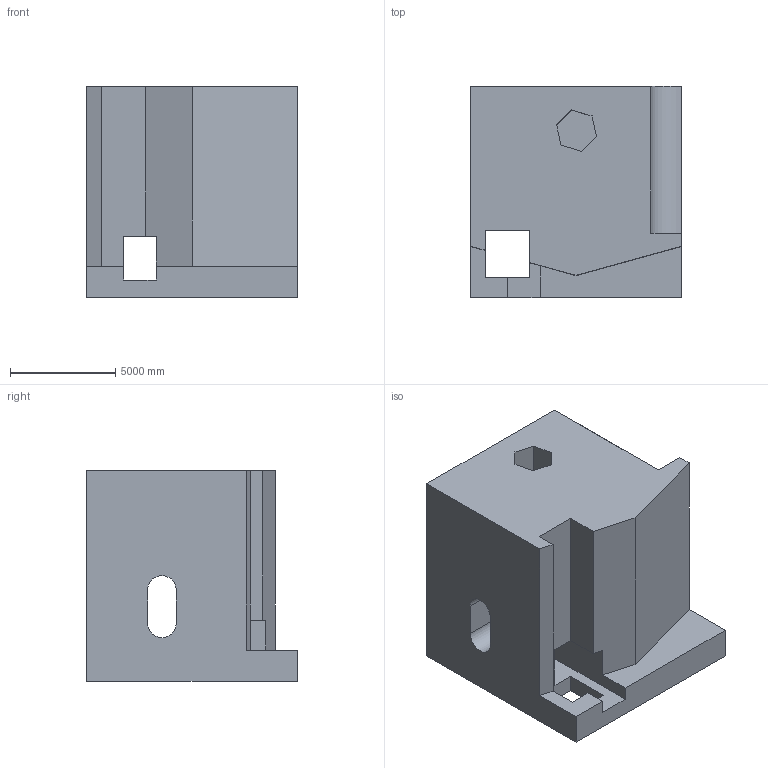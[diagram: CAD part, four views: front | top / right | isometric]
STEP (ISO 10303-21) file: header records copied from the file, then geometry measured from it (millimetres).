
FILE_DESCRIPTION (( 'STEP AP203' ), '1' );
FILE_NAME ('760.STEP', '2022-07-29T13:00:51', ( 'user' ), ( '' ), 'SwSTEP 2.0', 'SolidWorks 2021', '' );
FILE_SCHEMA (( 'CONFIG_CONTROL_DESIGN' ));
Length unit declared in the file: centimetre
Products named in the file (1): 760
Bounding box: 10000 x 10000 x 10000 mm (x, y, z)
Volume: 730072305804.5 mm3; surface area: 718519235.1 mm2
Topology: 1 solids, 1 shells, 46 faces, 144 edges, 96 vertices
Faces by surface type: plane 40, cylinder 6
Entity records: 1673 total; most frequent: ORIENTED_EDGE 288, CARTESIAN_POINT 287, DIRECTION 250, EDGE_CURVE 144, VECTOR 132, LINE 132, VERTEX_POINT 96, AXIS2_PLACEMENT_3D 59
